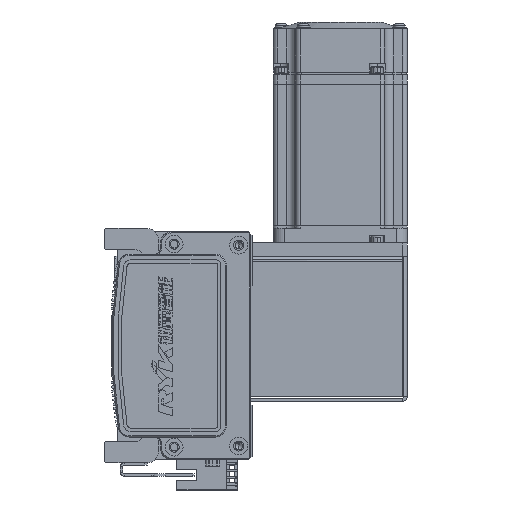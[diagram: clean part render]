
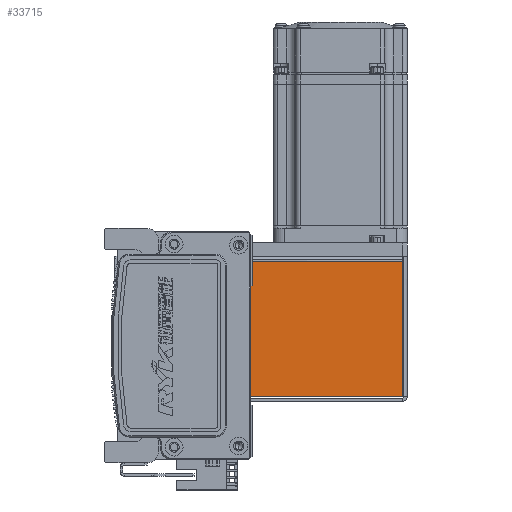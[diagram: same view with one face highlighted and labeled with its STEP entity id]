
A CAD part, left-side view. The second image highlights one B-rep face of the part: STEP entity #33715.
In plain terms, the highlighted planar face has unit normal (-1, 0, 0) as drawn and (0, 0, 1) by its records, which use the part's own axes.
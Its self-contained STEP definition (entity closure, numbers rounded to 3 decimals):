
#909 = LINE ( 'NONE', #58934, #40771 ) ;
#3695 = LINE ( 'NONE', #9363, #45258 ) ;
#3897 = CARTESIAN_POINT ( 'NONE',  ( 0., 72.5, 35. ) ) ;
#6550 = ORIENTED_EDGE ( 'NONE', *, *, #23479, .T. ) ;
#7383 = VERTEX_POINT ( 'NONE', #55100 ) ;
#9363 = CARTESIAN_POINT ( 'NONE',  ( -30.293, 0., 35. ) ) ;
#9872 = AXIS2_PLACEMENT_3D ( 'NONE', #29053, #23632, #66727 ) ;
#14146 = DIRECTION ( 'NONE',  ( -1., 0., 0. ) ) ;
#14576 = CARTESIAN_POINT ( 'NONE',  ( 30.263, 0.737, 35. ) ) ;
#15884 = VERTEX_POINT ( 'NONE', #39448 ) ;
#16806 = ORIENTED_EDGE ( 'NONE', *, *, #44303, .F. ) ;
#21795 = EDGE_CURVE ( 'NONE', #7383, #15884, #909, .T. ) ;
#23479 = EDGE_CURVE ( 'NONE', #63841, #67210, #55012, .T. ) ;
#23632 = DIRECTION ( 'NONE',  ( 0., 0., -1. ) ) ;
#24063 = EDGE_LOOP ( 'NONE', ( #30052, #6550, #16806, #54744 ) ) ;
#29053 = CARTESIAN_POINT ( 'NONE',  ( 0., 0., 35. ) ) ;
#30052 = ORIENTED_EDGE ( 'NONE', *, *, #36601, .T. ) ;
#33568 = PLANE ( 'NONE',  #9872 ) ;
#33715 = ADVANCED_FACE ( 'NONE', ( #60199 ), #33568, .F. ) ;
#36601 = EDGE_CURVE ( 'NONE', #7383, #63841, #46165, .T. ) ;
#37622 = DIRECTION ( 'NONE',  ( -1., 0., 0. ) ) ;
#38389 = CARTESIAN_POINT ( 'NONE',  ( -30.293, 72.5, 35. ) ) ;
#39448 = CARTESIAN_POINT ( 'NONE',  ( -30.293, 0.737, 35. ) ) ;
#39651 = CARTESIAN_POINT ( 'NONE',  ( 30.263, 72.5, 35. ) ) ;
#40771 = VECTOR ( 'NONE', #37622, 1000. ) ;
#41951 = VECTOR ( 'NONE', #58824, 1000. ) ;
#44303 = EDGE_CURVE ( 'NONE', #15884, #67210, #3695, .T. ) ;
#45258 = VECTOR ( 'NONE', #47514, 1000. ) ;
#46165 = LINE ( 'NONE', #14576, #41951 ) ;
#47514 = DIRECTION ( 'NONE',  ( 0., 1., 0. ) ) ;
#52496 = VECTOR ( 'NONE', #14146, 1000. ) ;
#54744 = ORIENTED_EDGE ( 'NONE', *, *, #21795, .F. ) ;
#55012 = LINE ( 'NONE', #3897, #52496 ) ;
#55100 = CARTESIAN_POINT ( 'NONE',  ( 30.263, 0.737, 35. ) ) ;
#58824 = DIRECTION ( 'NONE',  ( 0., 1., 0. ) ) ;
#58934 = CARTESIAN_POINT ( 'NONE',  ( -32.5, 0.737, 35. ) ) ;
#60199 = FACE_OUTER_BOUND ( 'NONE', #24063, .T. ) ;
#63841 = VERTEX_POINT ( 'NONE', #39651 ) ;
#66727 = DIRECTION ( 'NONE',  ( -1., 0., 0. ) ) ;
#67210 = VERTEX_POINT ( 'NONE', #38389 ) ;
